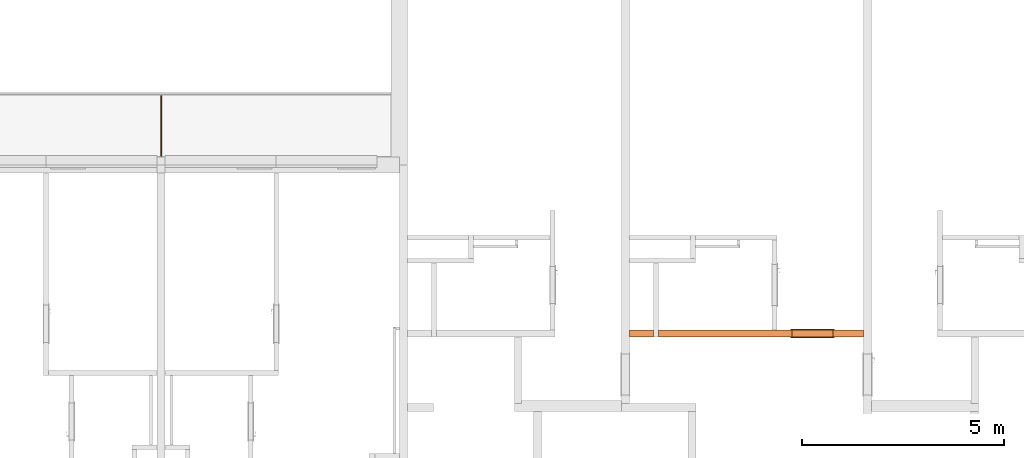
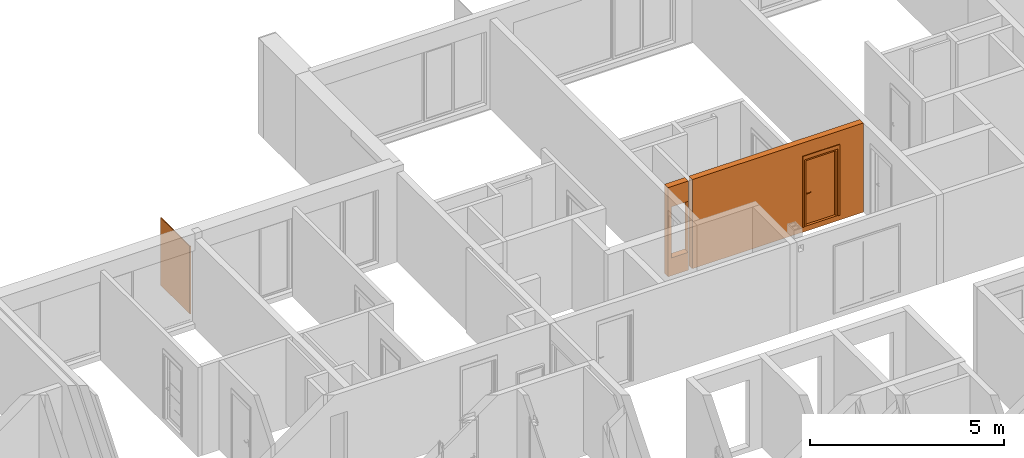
# One storey, part 24 of 64: 3 proxies, 2 openings.
"""IFC2X3 building model written with IfcOpenShell, lengths in millimetres."""

from ifc_helpers import new_model, entity, si_unit, converted_unit, derived_unit, money_unit, direction, frame, origin_with_axes, origin_2d_with_axis, place, context, subcontext, project, spatial, polyline, rectangle, outline, extrude, open_shell, faceted_brep, surface_model, source, transform, mapped, material, type_object, element, fill, save


model = new_model("IFC2X3")

# Units and contexts
model_context = context("Model", 3, precision=0.01, world=origin_with_axes(), true_north=direction((0.34421633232, 0.938890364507)))
body_context = subcontext(model_context, "Body", "Model", "MODEL_VIEW")
ifc_project = project(units=[si_unit("LENGTHUNIT", "METRE", prefix="MILLI"), si_unit("AREAUNIT", "SQUARE_METRE"), si_unit("VOLUMEUNIT", "CUBIC_METRE"), converted_unit("PLANEANGLEUNIT", "DEGREE", entity("IfcPlaneAngleMeasure", 0.0174532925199), si_unit("PLANEANGLEUNIT", "RADIAN"), dimensions=[0, 0, 0, 0, 0, 0, 0]), si_unit("SOLIDANGLEUNIT", "STERADIAN"), money_unit("USD"), converted_unit("TIMEUNIT", "Year", entity("IfcTimeMeasure", 31556926.0), si_unit("TIMEUNIT", "SECOND"), dimensions=[0, 0, 1, 0, 0, 0, 0]), si_unit("MASSUNIT", "GRAM", prefix="KILO"), si_unit("THERMODYNAMICTEMPERATUREUNIT", "DEGREE_CELSIUS"), si_unit("LUMINOUSINTENSITYUNIT", "LUMEN"), si_unit("ENERGYUNIT", "JOULE", prefix="MEGA"), derived_unit("THERMALCONDUCTANCEUNIT", [(si_unit("POWERUNIT", "WATT"), 1), (si_unit("LENGTHUNIT", "METRE"), -1), (si_unit("THERMODYNAMICTEMPERATUREUNIT", "KELVIN"), -1)]), derived_unit("SPECIFICHEATCAPACITYUNIT", [(si_unit("ENERGYUNIT", "JOULE"), 1), (si_unit("MASSUNIT", "GRAM", prefix="KILO"), -1), (si_unit("THERMODYNAMICTEMPERATUREUNIT", "KELVIN"), -1)]), derived_unit("MASSDENSITYUNIT", [(si_unit("MASSUNIT", "GRAM", prefix="KILO"), 1), (si_unit("VOLUMEUNIT", "CUBIC_METRE"), -1)])], contexts=[model_context])

# Site, building, storey
site_placement = place(None, origin_with_axes())
site = spatial("IfcSite", under=ifc_project, at=site_placement, Name="USTRONIE MORSKIE", CompositionType="ELEMENT")
building_placement = place(site_placement, origin_with_axes())
building = spatial("IfcBuilding", under=site, at=building_placement, Name="Budynek", CompositionType="ELEMENT")
storey_placement = place(building_placement, frame((0.0, 0.0, 7000.0), z_axis=(0.0, 0.0, 1.0), x_axis=(1.0, 0.0, 0.0)))
storey = spatial("IfcBuildingStorey", under=building, at=storey_placement, Name="PIĘTRO 2", CompositionType="ELEMENT", Elevation=7000.0)

# Proxies, openings
ifc_material_1 = material(Name="Bloczki silikatowe")
building_element_proxy_type_1 = type_object("IfcBuildingElementProxyType", Name="Bloczki silikatowe 180", PredefinedType="NOTDEFINED")
proxy_1_placement = place(storey_placement, frame((390817.920919, 740631.199036, -160.0), z_axis=(0.0, 0.0, 1.0), x_axis=(-1.0, 0.0, 0.0)))
proxy_1 = element("IfcBuildingElementProxy", 1, at=proxy_1_placement, inside=storey, type_object=building_element_proxy_type_1, material=ifc_material_1, Name="SW-02", context=body_context, shape_type="Brep", body=[
    faceted_brep([(5179.9965926, -90.0, 2800.0), (5179.9965926, 90.0, 2800.0), (100.0, 90.0, 2800.0), (100.0, -90.0, 2800.0), (5179.9965926, -90.0, 0.0), (5179.9965926, 90.0, 0.0), (100.0, 90.0, 0.0), (100.0, -90.0, 0.0)], [[[0, 1, 2, 3]], [[1, 0, 4, 5]], [[1, 5, 6, 2]], [[7, 3, 2, 6]], [[4, 0, 3, 7]], [[5, 4, 7, 6]]]),
    faceted_brep([(5900.0, -90.0, 2800.0), (5900.0, 90.0, 2800.0), (5299.9965926, 90.0, 2800.0), (5299.9965926, -90.0, 2800.0), (5900.0, -90.0, 0.0), (5900.0, 90.0, 0.0), (5299.9965926, 90.0, 0.0), (5299.9965926, -90.0, 0.0)], [[[0, 1, 2, 3]], [[1, 0, 4, 5]], [[1, 5, 6, 2]], [[7, 3, 2, 6]], [[4, 0, 3, 7]], [[5, 4, 7, 6]]]),
])
opening_1_placement = place(proxy_1_placement, frame((1360.0, 0.0, 160.0), z_axis=(0.0, 0.0, 1.0), x_axis=(1.0, 0.0, 0.0)))
opening_1 = element("IfcOpeningElement", 2, at=opening_1_placement, cuts=proxy_1, Name="Dw.1", context=body_context, shape_type="SweptSolid", body=[
    extrude(rectangle(XDim=1020.0, YDim=2120.0, at=origin_2d_with_axis()), frame((0.0, -180.0, 1060.0), z_axis=(0.0, 1.0, 0.0), x_axis=(-1.0, 0.0, 0.0)), (0.0, 0.0, 1.0), 540.0),
    extrude(rectangle(XDim=1094.0, YDim=2227.0, at=origin_2d_with_axis()), frame((0.0, -90.0, 1113.5), z_axis=(0.0, 1.0, 0.0), x_axis=(-1.0, 0.0, 0.0)), (0.0, 0.0, -1.0), 180.0),
    extrude(rectangle(XDim=1094.0, YDim=2227.0, at=origin_2d_with_axis()), frame((0.0, 90.0, 1113.5), z_axis=(0.0, -1.0, 0.0), x_axis=(-1.0, 0.0, 0.0)), (0.0, 0.0, -1.0), 180.0),
])
opening_2_placement = place(proxy_1_placement, frame((5550.00272446, 0.0, 560.0), z_axis=(0.0, 0.0, 1.0), x_axis=(1.0, 0.0, 0.0)))
element("IfcOpeningElement", 3, at=opening_2_placement, cuts=proxy_1, Name="R.01", context=body_context, shape_type="SweptSolid", body=[
    extrude(rectangle(XDim=500.001816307, YDim=1600.0, at=origin_2d_with_axis()), frame((0.0, 89.9999999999, 800.0), z_axis=(0.0, -1.0, 0.0), x_axis=(1.0, 0.0, 0.0)), (0.0, 0.0, -1.0), 180.0),
    extrude(rectangle(XDim=500.001816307, YDim=1600.0, at=origin_2d_with_axis()), frame((0.0, 89.9999999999, 800.0), z_axis=(0.0, 1.0, 0.0), x_axis=(1.0, 0.0, 0.0)), (0.0, 0.0, -1.0), 180.0),
])
building_element_proxy_type_2 = type_object("IfcBuildingElementProxyType", Name="Drzwi 23", PredefinedType="NOTDEFINED")
shared_shape = source(origin_with_axes(), body_context, "Body", "SurfaceModel", [
    faceted_brep([(-510.0, 0.0, 0.0), (-510.0, 65.0, 0.0), (-485.0, 65.0, 0.0), (-485.0, 0.0, 0.0), (-510.0, 0.0, 2120.0), (-510.0, 65.0, 2120.0), (-485.0, 65.0, 2095.0), (-485.0, 0.0, 2095.0)], [[[0, 1, 2, 3]], [[4, 5, 1, 0]], [[1, 5, 6, 2]], [[3, 2, 6, 7]], [[0, 3, 7, 4]], [[7, 6, 5, 4]]]),
    faceted_brep([(510.0, 0.0, 2120.0), (510.0, 65.0, 2120.0), (485.0, 65.0, 2095.0), (485.0, 0.0, 2095.0), (510.0, 0.0, 0.0), (510.0, 65.0, 0.0), (485.0, 65.0, 0.0), (485.0, 0.0, 0.0)], [[[0, 1, 2, 3]], [[4, 5, 1, 0]], [[1, 5, 6, 2]], [[3, 2, 6, 7]], [[0, 3, 7, 4]], [[7, 6, 5, 4]]]),
    faceted_brep([(-485.0, 0.0, 2095.0), (-485.0, 65.0, 2095.0), (485.0, 65.0, 2095.0), (485.0, 0.0, 2095.0), (-510.0, 0.0, 2120.0), (-510.0, 65.0, 2120.0), (510.0, 65.0, 2120.0), (510.0, 0.0, 2120.0)], [[[0, 1, 2, 3]], [[4, 5, 1, 0]], [[1, 5, 6, 2]], [[3, 2, 6, 7]], [[0, 3, 7, 4]], [[7, 6, 5, 4]]]),
    faceted_brep([(-547.0, 84.0, 0.0), (-497.0, 84.0, 0.0), (-497.0, 65.0, 0.0), (-547.0, 65.0, 0.0), (-547.0, 84.0, 2227.0), (-497.0, 84.0, 2107.0), (-497.0, 65.0, 2107.0), (-547.0, 65.0, 2227.0)], [[[0, 1, 2, 3]], [[0, 4, 5, 1]], [[1, 5, 6, 2]], [[3, 2, 6, 7]], [[4, 0, 3, 7]], [[5, 4, 7, 6]]]),
    faceted_brep([(547.0, 84.0, 2227.0), (497.0, 84.0, 2107.0), (497.0, 65.0, 2107.0), (547.0, 65.0, 2227.0), (547.0, 84.0, 0.0), (497.0, 84.0, 0.0), (497.0, 65.0, 0.0), (547.0, 65.0, 0.0)], [[[0, 1, 2, 3]], [[0, 4, 5, 1]], [[1, 5, 6, 2]], [[3, 2, 6, 7]], [[4, 0, 3, 7]], [[5, 4, 7, 6]]]),
    faceted_brep([(-547.0, 84.0, 2227.0), (-497.0, 84.0, 2107.0), (-497.0, 65.0, 2107.0), (-547.0, 65.0, 2227.0), (547.0, 84.0, 2227.0), (497.0, 84.0, 2107.0), (497.0, 65.0, 2107.0), (547.0, 65.0, 2227.0)], [[[0, 1, 2, 3]], [[0, 4, 5, 1]], [[1, 5, 6, 2]], [[3, 2, 6, 7]], [[4, 0, 3, 7]], [[5, 4, 7, 6]]]),
    faceted_brep([(-547.0, -134.0, 0.0), (-547.0, -115.0, 0.0), (-497.0, -115.0, 0.0), (-497.0, -134.0, 0.0), (-547.0, -134.0, 2227.0), (-547.0, -115.0, 2227.0), (-497.0, -115.0, 2107.0), (-497.0, -134.0, 2107.0)], [[[0, 1, 2, 3]], [[4, 5, 1, 0]], [[1, 5, 6, 2]], [[3, 2, 6, 7]], [[0, 3, 7, 4]], [[7, 6, 5, 4]]]),
    faceted_brep([(547.0, -134.0, 2227.0), (547.0, -115.0, 2227.0), (497.0, -115.0, 2107.0), (497.0, -134.0, 2107.0), (547.0, -134.0, 0.0), (547.0, -115.0, 0.0), (497.0, -115.0, 0.0), (497.0, -134.0, 0.0)], [[[0, 1, 2, 3]], [[4, 5, 1, 0]], [[1, 5, 6, 2]], [[3, 2, 6, 7]], [[0, 3, 7, 4]], [[7, 6, 5, 4]]]),
    faceted_brep([(-547.0, -134.0, 2227.0), (-547.0, -115.0, 2227.0), (-497.0, -115.0, 2107.0), (-497.0, -134.0, 2107.0), (547.0, -134.0, 2227.0), (547.0, -115.0, 2227.0), (497.0, -115.0, 2107.0), (497.0, -134.0, 2107.0)], [[[0, 1, 2, 3]], [[4, 5, 1, 0]], [[1, 5, 6, 2]], [[3, 2, 6, 7]], [[0, 3, 7, 4]], [[7, 6, 5, 4]]]),
    faceted_brep([(-450.0, -40.0, 0.0), (-450.0, -40.0, 2050.0), (-450.0, -115.0, 2050.0), (-450.0, -115.0, 0.0), (-462.0, -40.0, 2050.0), (-462.0, -40.0, 0.0), (-462.0, 0.0, 2050.0), (-510.0, 0.0, 2050.0), (-510.0, -115.0, 2050.0), (-510.0, -115.0, 0.0), (-510.0, 0.0, 0.0), (-462.0, 0.0, 0.0)], [[[0, 1, 2, 3]], [[4, 1, 0, 5]], [[4, 6, 7, 8, 2, 1]], [[3, 2, 8, 9]], [[5, 0, 3, 9, 10, 11]], [[6, 4, 5, 11]], [[6, 11, 10, 7]], [[10, 9, 8, 7]]]),
    faceted_brep([(462.0, -40.0, 2050.0), (450.0, -40.0, 2050.0), (450.0, -115.0, 2050.0), (510.0, -115.0, 2050.0), (510.0, 0.0, 2050.0), (462.0, 0.0, 2050.0), (462.0, -40.0, 0.0), (450.0, -40.0, 0.0), (450.0, -115.0, 0.0), (510.0, -115.0, 0.0), (510.0, 0.0, 0.0), (462.0, 0.0, 0.0)], [[[0, 1, 2, 3, 4, 5]], [[1, 0, 6, 7]], [[1, 7, 8, 2]], [[3, 2, 8, 9]], [[4, 3, 9, 10]], [[11, 5, 4, 10]], [[0, 5, 11, 6]], [[6, 11, 10, 9, 8, 7]]]),
    faceted_brep([(-462.0, 0.0, 2062.0), (-462.0, 0.0, 2050.0), (-510.0, 0.0, 2050.0), (-510.0, 0.0, 2120.0), (510.0, 0.0, 2120.0), (510.0, 0.0, 2050.0), (462.0, 0.0, 2050.0), (462.0, 0.0, 2062.0), (-462.0, -40.0, 2062.0), (-462.0, -40.0, 2050.0), (-450.0, -40.0, 2050.0), (-450.0, -115.0, 2050.0), (-510.0, -115.0, 2050.0), (-510.0, -115.0, 2120.0), (510.0, -115.0, 2120.0), (510.0, -115.0, 2050.0), (462.0, -40.0, 2050.0), (450.0, -115.0, 2050.0), (450.0, -40.0, 2050.0), (462.0, -40.0, 2062.0)], [[[0, 1, 2, 3, 4, 5, 6, 7]], [[1, 0, 8, 9]], [[9, 10, 11, 12, 2, 1]], [[2, 12, 13, 3]], [[3, 13, 14, 4]], [[4, 14, 15, 5]], [[16, 6, 5, 15, 17, 18]], [[7, 6, 16, 19]], [[0, 7, 19, 8]], [[16, 18, 10, 9, 8, 19]], [[10, 18, 17, 11]], [[17, 15, 14, 13, 12, 11]]]),
    faceted_brep([(-440.5, -40.0, 1060.0), (-440.5, -43.0, 1060.0), (-383.5, -43.0, 1060.0), (-383.5, -40.0, 1060.0), (-440.5, -40.0, 870.0), (-440.5, -43.0, 870.0), (-383.5, -43.0, 870.0), (-383.5, -40.0, 870.0)], [[[0, 1, 2, 3]], [[4, 5, 1, 0]], [[1, 5, 6, 2]], [[3, 2, 6, 7]], [[0, 3, 7, 4]], [[7, 6, 5, 4]]]),
    faceted_brep([(-412.0, -104.0, 990.0), (-412.0, -111.0, 990.0), (-417.0, -111.0, 991.339745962), (-417.0, -104.0, 991.339745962), (-387.0, -104.0, 990.0), (-387.0, -111.0, 990.0), (-387.0, -111.0, 1010.0), (-412.0, -111.0, 1010.0), (-417.0, -111.0, 1008.66025404), (-420.660254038, -111.0, 1005.0), (-422.0, -111.0, 1000.0), (-420.660254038, -111.0, 995.0), (-420.660254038, -104.0, 995.0), (-422.0, -104.0, 1000.0), (-420.660254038, -104.0, 1005.0), (-417.0, -104.0, 1008.66025404), (-412.0, -104.0, 1010.0), (-387.0, -104.0, 1010.0)], [[[0, 1, 2, 3]], [[4, 5, 1, 0]], [[1, 5, 6, 7, 8, 9, 10, 11, 2]], [[3, 2, 11, 12]], [[0, 3, 12, 13, 14, 15, 16, 17, 4]], [[17, 6, 5, 4]], [[16, 7, 6, 17]], [[15, 8, 7, 16]], [[14, 9, 8, 15]], [[13, 10, 9, 14]], [[12, 11, 10, 13]]]),
    surface_model("IfcShellBasedSurfaceModel", [(-387.0, -104.0, 1010.0), (-373.596090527, -111.0, 1009.60730092), (-373.901717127, -104.0, 1009.60730092), (-387.0, -111.0, 1010.0), (-346.890283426, -108.663544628, 1008.82190275), (-373.901717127, -104.0, 990.392699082), (-387.0, -104.0, 990.0), (-387.0, -111.0, 990.0), (-373.596090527, -111.0, 990.392699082), (-346.890283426, -108.663544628, 991.178097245), (-347.804837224, -101.716818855, 1008.82190275), (-347.804837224, -101.716818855, 991.178097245), (-320.489735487, -104.008415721, 991.963495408), (-320.489735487, -104.008415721, 1008.03650459), (-322.006256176, -97.1678329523, 1008.03650459), (-322.006256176, -97.1678329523, 991.963495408), (-294.59537082, -97.0700416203, 992.748893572), (-294.59537082, -97.0700416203, 1007.25110643), (-296.702316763, -90.3876628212, 1007.25110643), (-296.702316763, -90.3876628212, 992.748893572), (-286.538795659, -94.1376880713, 993.0), (-286.538795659, -94.1376880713, 1007.0), (-288.829442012, -87.5221707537, 1007.0), (-288.829442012, -87.5221707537, 993.0)], [open_shell([[[0, 1, 2]], [[0, 3, 1]], [[2, 1, 4]], [[0, 2, 5, 6]], [[3, 7, 8, 1]], [[1, 8, 9, 4]], [[2, 4, 10]], [[2, 10, 11, 5]], [[5, 7, 6]], [[5, 8, 7]], [[11, 9, 8]], [[4, 9, 12, 13]], [[10, 4, 13]], [[10, 14, 15, 11]], [[11, 8, 5]], [[15, 9, 11]], [[15, 12, 9]], [[13, 12, 16, 17]], [[10, 13, 14]], [[14, 18, 19, 15]], [[19, 12, 15]], [[19, 16, 12]], [[17, 16, 20, 21]], [[14, 13, 17]], [[14, 17, 18]], [[18, 22, 23, 19]], [[23, 16, 19]], [[23, 20, 16]], [[22, 21, 20, 23]], [[18, 17, 21]], [[18, 21, 22]]])]),
    faceted_brep([(-401.607695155, -53.0, 994.0), (-400.741669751, -43.0, 993.5), (-399.0, -43.0, 1000.0), (-400.0, -53.0, 1000.0), (-406.0, -53.0, 989.607695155), (-405.5, -43.0, 988.741669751), (-412.0, -43.0, 987.0), (-418.5, -43.0, 988.741669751), (-423.258330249, -43.0, 993.5), (-425.0, -43.0, 1000.0), (-423.258330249, -43.0, 1006.5), (-418.5, -43.0, 1011.25833025), (-412.0, -43.0, 1013.0), (-405.5, -43.0, 1011.25833025), (-400.741669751, -43.0, 1006.5), (-401.607695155, -53.0, 1006.0), (-406.0, -53.0, 1010.39230485), (-412.0, -53.0, 1012.0), (-418.0, -53.0, 1010.39230485), (-422.392304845, -53.0, 1006.0), (-424.0, -53.0, 1000.0), (-422.392304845, -53.0, 994.0), (-418.0, -53.0, 989.607695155), (-412.0, -53.0, 988.0)], [[[0, 1, 2, 3]], [[4, 5, 1, 0]], [[2, 1, 5, 6, 7, 8, 9, 10, 11, 12, 13, 14]], [[3, 2, 14, 15]], [[3, 15, 16, 17, 18, 19, 20, 21, 22, 23, 4, 0]], [[23, 6, 5, 4]], [[22, 7, 6, 23]], [[21, 8, 7, 22]], [[20, 9, 8, 21]], [[19, 10, 9, 20]], [[18, 11, 10, 19]], [[17, 12, 11, 18]], [[16, 13, 12, 17]], [[15, 14, 13, 16]]]),
    faceted_brep([(-394.679491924, -47.0, 895.0), (-392.947441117, -43.0, 894.0), (-390.0, -43.0, 905.0), (-392.0, -47.0, 905.0), (-402.0, -47.0, 887.679491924), (-401.0, -43.0, 885.947441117), (-412.0, -43.0, 883.0), (-423.0, -43.0, 885.947441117), (-431.052558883, -43.0, 894.0), (-434.0, -43.0, 905.0), (-431.052558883, -43.0, 916.0), (-423.0, -43.0, 924.052558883), (-412.0, -43.0, 927.0), (-401.0, -43.0, 924.052558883), (-392.947441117, -43.0, 916.0), (-394.679491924, -47.0, 915.0), (-402.0, -47.0, 922.320508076), (-412.0, -47.0, 925.0), (-422.0, -47.0, 922.320508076), (-429.320508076, -47.0, 915.0), (-432.0, -47.0, 905.0), (-429.320508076, -47.0, 895.0), (-422.0, -47.0, 887.679491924), (-412.0, -47.0, 885.0)], [[[0, 1, 2, 3]], [[4, 5, 1, 0]], [[2, 1, 5, 6, 7, 8, 9, 10, 11, 12, 13, 14]], [[3, 2, 14, 15]], [[3, 15, 16, 17, 18, 19, 20, 21, 22, 23, 4, 0]], [[23, 6, 5, 4]], [[22, 7, 6, 23]], [[21, 8, 7, 22]], [[20, 9, 8, 21]], [[19, 10, 9, 20]], [[18, 11, 10, 19]], [[17, 12, 11, 18]], [[16, 13, 12, 17]], [[15, 14, 13, 16]]]),
    faceted_brep([(-407.050252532, -49.0, 909.050252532), (-406.343145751, -47.0, 908.343145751), (-404.0, -47.0, 914.0), (-405.0, -49.0, 914.0), (-412.0, -49.0, 907.0), (-412.0, -47.0, 906.0), (-417.656854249, -47.0, 908.343145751), (-420.0, -47.0, 914.0), (-417.656854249, -47.0, 919.656854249), (-412.0, -47.0, 922.0), (-406.343145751, -47.0, 919.656854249), (-407.050252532, -49.0, 918.949747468), (-412.0, -49.0, 921.0), (-416.949747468, -49.0, 918.949747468), (-419.0, -49.0, 914.0), (-416.949747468, -49.0, 909.050252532)], [[[0, 1, 2, 3]], [[4, 5, 1, 0]], [[2, 1, 5, 6, 7, 8, 9, 10]], [[3, 2, 10, 11]], [[3, 11, 12, 13, 14, 15, 4, 0]], [[15, 6, 5, 4]], [[14, 7, 6, 15]], [[13, 8, 7, 14]], [[12, 9, 8, 13]], [[11, 10, 9, 12]]]),
    faceted_brep([(-412.0, -53.0, 1010.0), (-412.0, -104.0, 1010.0), (-407.0, -104.0, 1008.66025404), (-407.0, -53.0, 1008.66025404), (-417.0, -53.0, 1008.66025404), (-417.0, -104.0, 1008.66025404), (-420.660254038, -104.0, 1005.0), (-422.0, -104.0, 1000.0), (-420.660254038, -104.0, 995.0), (-417.0, -104.0, 991.339745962), (-412.0, -104.0, 990.0), (-407.0, -104.0, 991.339745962), (-403.339745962, -104.0, 995.0), (-402.0, -104.0, 1000.0), (-403.339745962, -104.0, 1005.0), (-403.339745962, -53.0, 1005.0), (-402.0, -53.0, 1000.0), (-403.339745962, -53.0, 995.0), (-407.0, -53.0, 991.339745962), (-412.0, -53.0, 990.0), (-417.0, -53.0, 991.339745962), (-420.660254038, -53.0, 995.0), (-422.0, -53.0, 1000.0), (-420.660254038, -53.0, 1005.0)], [[[0, 1, 2, 3]], [[4, 5, 1, 0]], [[1, 5, 6, 7, 8, 9, 10, 11, 12, 13, 14, 2]], [[3, 2, 14, 15]], [[0, 3, 15, 16, 17, 18, 19, 20, 21, 22, 23, 4]], [[23, 6, 5, 4]], [[22, 7, 6, 23]], [[21, 8, 7, 22]], [[20, 9, 8, 21]], [[19, 10, 9, 20]], [[18, 11, 10, 19]], [[17, 12, 11, 18]], [[16, 13, 12, 17]], [[15, 14, 13, 16]]]),
    faceted_brep([(-440.5, 0.0, 1060.0), (-383.5, 0.0, 1060.0), (-383.5, 3.0, 1060.0), (-440.5, 3.0, 1060.0), (-440.5, 0.0, 870.0), (-383.5, 0.0, 870.0), (-383.5, 3.0, 870.0), (-440.5, 3.0, 870.0)], [[[0, 1, 2, 3]], [[0, 4, 5, 1]], [[1, 5, 6, 2]], [[3, 2, 6, 7]], [[4, 0, 3, 7]], [[5, 4, 7, 6]]]),
    faceted_brep([(-412.0, 64.0, 990.0), (-417.0, 64.0, 991.339745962), (-417.0, 71.0, 991.339745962), (-412.0, 71.0, 990.0), (-387.0, 64.0, 990.0), (-387.0, 64.0, 1010.0), (-412.0, 64.0, 1010.0), (-417.0, 64.0, 1008.66025404), (-420.660254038, 64.0, 1005.0), (-422.0, 64.0, 1000.0), (-420.660254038, 64.0, 995.0), (-420.660254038, 71.0, 995.0), (-422.0, 71.0, 1000.0), (-420.660254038, 71.0, 1005.0), (-417.0, 71.0, 1008.66025404), (-412.0, 71.0, 1010.0), (-387.0, 71.0, 1010.0), (-387.0, 71.0, 990.0)], [[[0, 1, 2, 3]], [[0, 4, 5, 6, 7, 8, 9, 10, 1]], [[1, 10, 11, 2]], [[3, 2, 11, 12, 13, 14, 15, 16, 17]], [[4, 0, 3, 17]], [[5, 4, 17, 16]], [[6, 5, 16, 15]], [[7, 6, 15, 14]], [[8, 7, 14, 13]], [[9, 8, 13, 12]], [[10, 9, 12, 11]]]),
    surface_model("IfcShellBasedSurfaceModel", [(-387.0, 64.0, 1010.0), (-373.901717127, 64.0, 1009.60730092), (-373.596090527, 71.0, 1009.60730092), (-387.0, 64.0, 990.0), (-373.901717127, 64.0, 990.392699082), (-346.890283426, 68.6635446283, 1008.82190275), (-387.0, 71.0, 1010.0), (-387.0, 71.0, 990.0), (-347.804837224, 61.716818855, 991.178097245), (-347.804837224, 61.716818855, 1008.82190275), (-346.890283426, 68.6635446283, 991.178097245), (-373.596090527, 71.0, 990.392699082), (-322.006256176, 57.1678329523, 991.963495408), (-322.006256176, 57.1678329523, 1008.03650459), (-320.489735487, 64.0084157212, 1008.03650459), (-320.489735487, 64.0084157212, 991.963495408), (-296.702316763, 50.3876628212, 992.748893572), (-296.702316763, 50.3876628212, 1007.25110643), (-294.59537082, 57.0700416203, 1007.25110643), (-294.59537082, 57.0700416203, 992.748893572), (-288.829442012, 47.5221707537, 993.0), (-288.829442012, 47.5221707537, 1007.0), (-286.538795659, 54.1376880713, 1007.0), (-286.538795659, 54.1376880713, 993.0)], [open_shell([[[0, 1, 2]], [[0, 3, 4, 1]], [[1, 5, 2]], [[0, 2, 6]], [[4, 3, 7]], [[1, 4, 8, 9]], [[1, 9, 5]], [[2, 5, 10, 11]], [[6, 2, 11, 7]], [[4, 7, 11]], [[8, 4, 11]], [[9, 8, 12, 13]], [[9, 14, 5]], [[5, 14, 15, 10]], [[8, 11, 10]], [[12, 8, 10]], [[13, 12, 16, 17]], [[9, 13, 14]], [[14, 18, 19, 15]], [[12, 10, 15]], [[16, 12, 15]], [[17, 16, 20, 21]], [[13, 17, 18]], [[13, 18, 14]], [[18, 22, 23, 19]], [[16, 15, 19]], [[20, 16, 19]], [[21, 20, 23, 22]], [[17, 21, 22]], [[17, 22, 18]], [[20, 19, 23]]])]),
    faceted_brep([(-401.607695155, 13.0, 994.0), (-400.0, 13.0, 1000.0), (-399.0, 3.0, 1000.0), (-400.741669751, 3.0, 993.5), (-406.0, 13.0, 989.607695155), (-412.0, 13.0, 988.0), (-418.0, 13.0, 989.607695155), (-422.392304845, 13.0, 994.0), (-424.0, 13.0, 1000.0), (-422.392304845, 13.0, 1006.0), (-418.0, 13.0, 1010.39230485), (-412.0, 13.0, 1012.0), (-406.0, 13.0, 1010.39230485), (-401.607695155, 13.0, 1006.0), (-400.741669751, 3.0, 1006.5), (-405.5, 3.0, 1011.25833025), (-412.0, 3.0, 1013.0), (-418.5, 3.0, 1011.25833025), (-423.258330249, 3.0, 1006.5), (-425.0, 3.0, 1000.0), (-423.258330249, 3.0, 993.5), (-418.5, 3.0, 988.741669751), (-412.0, 3.0, 987.0), (-405.5, 3.0, 988.741669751)], [[[0, 1, 2, 3]], [[1, 0, 4, 5, 6, 7, 8, 9, 10, 11, 12, 13]], [[1, 13, 14, 2]], [[2, 14, 15, 16, 17, 18, 19, 20, 21, 22, 23, 3]], [[4, 0, 3, 23]], [[5, 4, 23, 22]], [[6, 5, 22, 21]], [[7, 6, 21, 20]], [[8, 7, 20, 19]], [[9, 8, 19, 18]], [[10, 9, 18, 17]], [[11, 10, 17, 16]], [[12, 11, 16, 15]], [[13, 12, 15, 14]]]),
    faceted_brep([(-394.679491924, 7.0, 895.0), (-392.0, 7.0, 905.0), (-390.0, 3.0, 905.0), (-392.947441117, 3.0, 894.0), (-402.0, 7.0, 887.679491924), (-412.0, 7.0, 885.0), (-422.0, 7.0, 887.679491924), (-429.320508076, 7.0, 895.0), (-432.0, 7.0, 905.0), (-429.320508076, 7.0, 915.0), (-422.0, 7.0, 922.320508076), (-412.0, 7.0, 925.0), (-402.0, 7.0, 922.320508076), (-394.679491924, 7.0, 915.0), (-392.947441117, 3.0, 916.0), (-401.0, 3.0, 924.052558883), (-412.0, 3.0, 927.0), (-423.0, 3.0, 924.052558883), (-431.052558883, 3.0, 916.0), (-434.0, 3.0, 905.0), (-431.052558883, 3.0, 894.0), (-423.0, 3.0, 885.947441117), (-412.0, 3.0, 883.0), (-401.0, 3.0, 885.947441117)], [[[0, 1, 2, 3]], [[1, 0, 4, 5, 6, 7, 8, 9, 10, 11, 12, 13]], [[1, 13, 14, 2]], [[2, 14, 15, 16, 17, 18, 19, 20, 21, 22, 23, 3]], [[4, 0, 3, 23]], [[5, 4, 23, 22]], [[6, 5, 22, 21]], [[7, 6, 21, 20]], [[8, 7, 20, 19]], [[9, 8, 19, 18]], [[10, 9, 18, 17]], [[11, 10, 17, 16]], [[12, 11, 16, 15]], [[13, 12, 15, 14]]]),
    faceted_brep([(-407.050252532, 9.0, 909.050252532), (-405.0, 9.0, 914.0), (-404.0, 7.0, 914.0), (-406.343145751, 7.0, 908.343145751), (-412.0, 9.0, 907.0), (-416.949747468, 9.0, 909.050252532), (-419.0, 9.0, 914.0), (-416.949747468, 9.0, 918.949747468), (-412.0, 9.0, 921.0), (-407.050252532, 9.0, 918.949747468), (-406.343145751, 7.0, 919.656854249), (-412.0, 7.0, 922.0), (-417.656854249, 7.0, 919.656854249), (-420.0, 7.0, 914.0), (-417.656854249, 7.0, 908.343145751), (-412.0, 7.0, 906.0)], [[[0, 1, 2, 3]], [[1, 0, 4, 5, 6, 7, 8, 9]], [[1, 9, 10, 2]], [[2, 10, 11, 12, 13, 14, 15, 3]], [[4, 0, 3, 15]], [[5, 4, 15, 14]], [[6, 5, 14, 13]], [[7, 6, 13, 12]], [[8, 7, 12, 11]], [[9, 8, 11, 10]]]),
    faceted_brep([(-412.0, 13.0, 1010.0), (-407.0, 13.0, 1008.66025404), (-407.0, 64.0, 1008.66025404), (-412.0, 64.0, 1010.0), (-417.0, 13.0, 1008.66025404), (-420.660254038, 13.0, 1005.0), (-422.0, 13.0, 1000.0), (-420.660254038, 13.0, 995.0), (-417.0, 13.0, 991.339745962), (-412.0, 13.0, 990.0), (-407.0, 13.0, 991.339745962), (-403.339745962, 13.0, 995.0), (-402.0, 13.0, 1000.0), (-403.339745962, 13.0, 1005.0), (-403.339745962, 64.0, 1005.0), (-402.0, 64.0, 1000.0), (-403.339745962, 64.0, 995.0), (-407.0, 64.0, 991.339745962), (-412.0, 64.0, 990.0), (-417.0, 64.0, 991.339745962), (-420.660254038, 64.0, 995.0), (-422.0, 64.0, 1000.0), (-420.660254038, 64.0, 1005.0), (-417.0, 64.0, 1008.66025404)], [[[0, 1, 2, 3]], [[0, 4, 5, 6, 7, 8, 9, 10, 11, 12, 13, 1]], [[1, 13, 14, 2]], [[3, 2, 14, 15, 16, 17, 18, 19, 20, 21, 22, 23]], [[4, 0, 3, 23]], [[5, 4, 23, 22]], [[6, 5, 22, 21]], [[7, 6, 21, 20]], [[8, 7, 20, 19]], [[9, 8, 19, 18]], [[10, 9, 18, 17]], [[11, 10, 17, 16]], [[12, 11, 16, 15]], [[13, 12, 15, 14]]]),
    faceted_brep([(462.0, 0.0, 0.0), (462.0, -40.0, 0.0), (-462.0, -40.0, 0.0), (-462.0, 0.0, 0.0), (462.0, 0.0, 2062.0), (462.0, -40.0, 2062.0), (-462.0, -40.0, 2062.0), (-462.0, 0.0, 2062.0)], [[[0, 1, 2, 3]], [[4, 5, 1, 0]], [[1, 5, 6, 2]], [[3, 2, 6, 7]], [[0, 3, 7, 4]], [[7, 6, 5, 4]]]),
])
proxy_2_placement = place(opening_1_placement, frame((450.0, 0.0, 0.0), z_axis=(0.0, 0.0, 1.0), x_axis=(-1.0, 0.0, 0.0)))
proxy_2 = element("IfcBuildingElementProxy", 4, at=proxy_2_placement, inside=storey, type_object=building_element_proxy_type_2, Name="Dw.1", context=body_context, shape_type="MappedRepresentation", body=[
    mapped(shared_shape, transform((450.0, 25.0, 0.0))),
])
fill(opening_1, proxy_2)

# Proxy
ifc_material_2 = material(Name="Woda")
building_element_proxy_type_3 = type_object("IfcBuildingElementProxyType", Name="Woda 30", PredefinedType="NOTDEFINED")
proxy_3_placement = place(storey_placement, frame((373317.920919, 745021.206184, 20.0), z_axis=(0.0, 0.0, 1.0), x_axis=(0.0, 1.0, 0.0)))
element("IfcBuildingElementProxy", 5, at=proxy_3_placement, inside=storey, type_object=building_element_proxy_type_3, material=ifc_material_2, Name="Œciana-007", context=body_context, shape_type="SweptSolid", body=[
    extrude(outline(polyline([(0.0, -15.0), (1500.0, -15.0), (1500.0, 15.0), (0.0, 15.0), (0.0, -15.0)])), origin_with_axes(), (0.0, 0.0, 1.0), 2120.0),
])

save(model, "model.ifc")
